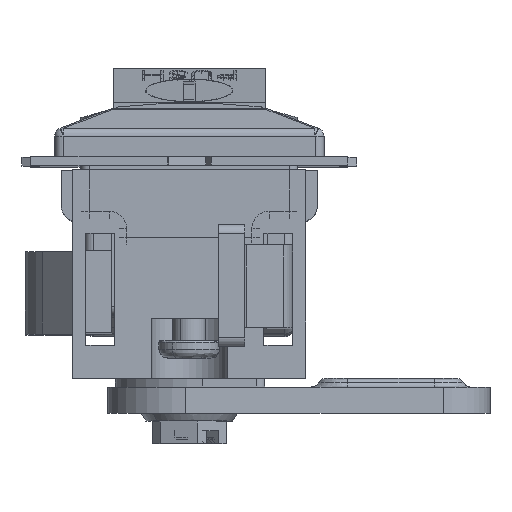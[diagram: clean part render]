
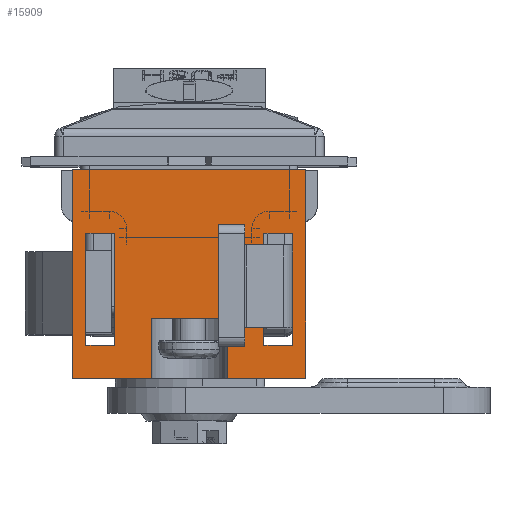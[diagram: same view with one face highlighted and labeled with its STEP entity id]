
A CAD part, top view. The second image highlights one B-rep face of the part: STEP entity #15909.
In plain terms, the highlighted planar face has unit normal (0, 0, 1).
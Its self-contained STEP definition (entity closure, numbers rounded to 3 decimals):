
#781 = LINE ( 'NONE', #7086, #1359 ) ;
#938 = LINE ( 'NONE', #10235, #2491 ) ;
#1156 = CARTESIAN_POINT ( 'NONE',  ( 13.09, 21.3, 18.91 ) ) ;
#1359 = VECTOR ( 'NONE', #23259, 1000. ) ;
#1410 = VECTOR ( 'NONE', #9659, 1000. ) ;
#1505 = DIRECTION ( 'NONE',  ( 1., 0., 0. ) ) ;
#1563 = EDGE_CURVE ( 'NONE', #16975, #1639, #9891, .T. ) ;
#1639 = VERTEX_POINT ( 'NONE', #4815 ) ;
#1686 = CARTESIAN_POINT ( 'NONE',  ( 13.09, 8.4, 18.91 ) ) ;
#1848 = LINE ( 'NONE', #6668, #1940 ) ;
#1940 = VECTOR ( 'NONE', #3043, 1000. ) ;
#1973 = ORIENTED_EDGE ( 'NONE', *, *, #14049, .F. ) ;
#2144 = LINE ( 'NONE', #1686, #2705 ) ;
#2491 = VECTOR ( 'NONE', #22830, 1000. ) ;
#2705 = VECTOR ( 'NONE', #1505, 1000. ) ;
#2744 = DIRECTION ( 'NONE',  ( 0., 1., 0. ) ) ;
#2902 = CARTESIAN_POINT ( 'NONE',  ( 11.59, 8.4, 18.91 ) ) ;
#3043 = DIRECTION ( 'NONE',  ( 0., 1., 0. ) ) ;
#3269 = EDGE_CURVE ( 'NONE', #3904, #5247, #14982, .T. ) ;
#3448 = LINE ( 'NONE', #16379, #4052 ) ;
#3572 = DIRECTION ( 'NONE',  ( -1., 0., 0. ) ) ;
#3609 = VECTOR ( 'NONE', #23014, 1000. ) ;
#3624 = VERTEX_POINT ( 'NONE', #22893 ) ;
#3904 = VERTEX_POINT ( 'NONE', #18223 ) ;
#3964 = VECTOR ( 'NONE', #19983, 1000. ) ;
#4052 = VECTOR ( 'NONE', #23290, 1000. ) ;
#4094 = CARTESIAN_POINT ( 'NONE',  ( 13.09, 21.3, 18.91 ) ) ;
#4241 = CARTESIAN_POINT ( 'NONE',  ( -13.71, 25.1, 18.91 ) ) ;
#4492 = AXIS2_PLACEMENT_3D ( 'NONE', #8312, #21084, #10181 ) ;
#4652 = FACE_OUTER_BOUND ( 'NONE', #21886, .T. ) ;
#4669 = VECTOR ( 'NONE', #5955, 1000. ) ;
#4815 = CARTESIAN_POINT ( 'NONE',  ( 4.09, 18.2, 18.91 ) ) ;
#5203 = ORIENTED_EDGE ( 'NONE', *, *, #16974, .F. ) ;
#5247 = VERTEX_POINT ( 'NONE', #14449 ) ;
#5468 = ORIENTED_EDGE ( 'NONE', *, *, #7988, .F. ) ;
#5471 = EDGE_CURVE ( 'NONE', #21590, #21177, #20949, .T. ) ;
#5955 = DIRECTION ( 'NONE',  ( 0., 1., 0. ) ) ;
#5986 = CARTESIAN_POINT ( 'NONE',  ( -13.71, 0., 18.91 ) ) ;
#6217 = VECTOR ( 'NONE', #3572, 1000. ) ;
#6248 = CARTESIAN_POINT ( 'NONE',  ( 4.09, 0., 18.91 ) ) ;
#6327 = ORIENTED_EDGE ( 'NONE', *, *, #22666, .F. ) ;
#6430 = DIRECTION ( 'NONE',  ( 1., 0., 0. ) ) ;
#6483 = CARTESIAN_POINT ( 'NONE',  ( 13.09, 18.2, 18.91 ) ) ;
#6668 = CARTESIAN_POINT ( 'NONE',  ( 11.59, 0., 18.91 ) ) ;
#7086 = CARTESIAN_POINT ( 'NONE',  ( 13.09, 8.4, 18.91 ) ) ;
#7948 = LINE ( 'NONE', #1156, #3609 ) ;
#7964 = DIRECTION ( 'NONE',  ( 0., -1., 0. ) ) ;
#7988 = EDGE_CURVE ( 'NONE', #12635, #19079, #2144, .T. ) ;
#7995 = LINE ( 'NONE', #13910, #12987 ) ;
#8048 = CARTESIAN_POINT ( 'NONE',  ( 13.09, 1.1, 18.91 ) ) ;
#8253 = ORIENTED_EDGE ( 'NONE', *, *, #11424, .F. ) ;
#8312 = CARTESIAN_POINT ( 'NONE',  ( 13.09, 0., 18.91 ) ) ;
#8510 = ORIENTED_EDGE ( 'NONE', *, *, #17584, .T. ) ;
#8979 = CARTESIAN_POINT ( 'NONE',  ( -12.21, 0., 18.91 ) ) ;
#9370 = VERTEX_POINT ( 'NONE', #8048 ) ;
#9634 = CARTESIAN_POINT ( 'NONE',  ( -8.895, 0., 18.91 ) ) ;
#9659 = DIRECTION ( 'NONE',  ( 0., 1., 0. ) ) ;
#9891 = LINE ( 'NONE', #6483, #14872 ) ;
#10151 = EDGE_CURVE ( 'NONE', #19079, #18698, #10674, .T. ) ;
#10181 = DIRECTION ( 'NONE',  ( -1., 0., 0. ) ) ;
#10235 = CARTESIAN_POINT ( 'NONE',  ( -4.71, 0., 18.91 ) ) ;
#10674 = LINE ( 'NONE', #9634, #1410 ) ;
#10972 = ORIENTED_EDGE ( 'NONE', *, *, #1563, .F. ) ;
#11028 = ORIENTED_EDGE ( 'NONE', *, *, #14714, .F. ) ;
#11168 = CARTESIAN_POINT ( 'NONE',  ( 8.275, 0., 18.91 ) ) ;
#11424 = EDGE_CURVE ( 'NONE', #3624, #12635, #22888, .T. ) ;
#11639 = FACE_BOUND ( 'NONE', #20627, .T. ) ;
#12635 = VERTEX_POINT ( 'NONE', #12821 ) ;
#12767 = ORIENTED_EDGE ( 'NONE', *, *, #16498, .F. ) ;
#12821 = CARTESIAN_POINT ( 'NONE',  ( -12.21, 8.4, 18.91 ) ) ;
#12987 = VECTOR ( 'NONE', #2744, 1000. ) ;
#13237 = LINE ( 'NONE', #4241, #22662 ) ;
#13910 = CARTESIAN_POINT ( 'NONE',  ( 13.09, 0., 18.91 ) ) ;
#14007 = FACE_BOUND ( 'NONE', #16927, .T. ) ;
#14049 = EDGE_CURVE ( 'NONE', #21065, #16975, #938, .T. ) ;
#14069 = VERTEX_POINT ( 'NONE', #15865 ) ;
#14165 = CARTESIAN_POINT ( 'NONE',  ( -8.895, 8.4, 18.91 ) ) ;
#14337 = VECTOR ( 'NONE', #19140, 1000. ) ;
#14392 = ORIENTED_EDGE ( 'NONE', *, *, #15465, .F. ) ;
#14449 = CARTESIAN_POINT ( 'NONE',  ( 8.275, 21.3, 18.91 ) ) ;
#14714 = EDGE_CURVE ( 'NONE', #16007, #3904, #1848, .T. ) ;
#14872 = VECTOR ( 'NONE', #6430, 1000. ) ;
#14925 = ORIENTED_EDGE ( 'NONE', *, *, #17841, .F. ) ;
#14982 = LINE ( 'NONE', #4094, #6217 ) ;
#15378 = CARTESIAN_POINT ( 'NONE',  ( -4.71, 18.2, 18.91 ) ) ;
#15465 = EDGE_CURVE ( 'NONE', #9370, #21590, #3448, .T. ) ;
#15504 = ORIENTED_EDGE ( 'NONE', *, *, #5471, .F. ) ;
#15865 = CARTESIAN_POINT ( 'NONE',  ( 8.275, 8.4, 18.91 ) ) ;
#15909 = ADVANCED_FACE ( 'NONE', ( #4652, #14007, #11639 ), #17531, .F. ) ;
#16007 = VERTEX_POINT ( 'NONE', #2902 ) ;
#16173 = ORIENTED_EDGE ( 'NONE', *, *, #10151, .F. ) ;
#16305 = CARTESIAN_POINT ( 'NONE',  ( -8.895, 21.3, 18.91 ) ) ;
#16379 = CARTESIAN_POINT ( 'NONE',  ( 13.09, 1.1, 18.91 ) ) ;
#16498 = EDGE_CURVE ( 'NONE', #1639, #22197, #17998, .T. ) ;
#16927 = EDGE_LOOP ( 'NONE', ( #16173, #5468, #8253, #22958 ) ) ;
#16974 = EDGE_CURVE ( 'NONE', #21177, #21065, #13237, .T. ) ;
#16975 = VERTEX_POINT ( 'NONE', #15378 ) ;
#17117 = EDGE_CURVE ( 'NONE', #18698, #3624, #7948, .T. ) ;
#17316 = LINE ( 'NONE', #11168, #19479 ) ;
#17468 = VERTEX_POINT ( 'NONE', #18872 ) ;
#17531 = PLANE ( 'NONE',  #4492 ) ;
#17544 = LINE ( 'NONE', #19913, #3964 ) ;
#17584 = EDGE_CURVE ( 'NONE', #9370, #17468, #7995, .T. ) ;
#17841 = EDGE_CURVE ( 'NONE', #14069, #16007, #781, .T. ) ;
#17998 = LINE ( 'NONE', #6248, #14337 ) ;
#18167 = EDGE_CURVE ( 'NONE', #22197, #17468, #17544, .T. ) ;
#18223 = CARTESIAN_POINT ( 'NONE',  ( 11.59, 21.3, 18.91 ) ) ;
#18456 = CARTESIAN_POINT ( 'NONE',  ( -13.71, 25.1, 18.91 ) ) ;
#18698 = VERTEX_POINT ( 'NONE', #16305 ) ;
#18872 = CARTESIAN_POINT ( 'NONE',  ( 13.09, 25.1, 18.91 ) ) ;
#18966 = DIRECTION ( 'NONE',  ( 1., 0., 0. ) ) ;
#19079 = VERTEX_POINT ( 'NONE', #14165 ) ;
#19140 = DIRECTION ( 'NONE',  ( 0., 1., 0. ) ) ;
#19242 = ORIENTED_EDGE ( 'NONE', *, *, #18167, .F. ) ;
#19479 = VECTOR ( 'NONE', #21981, 1000. ) ;
#19829 = CARTESIAN_POINT ( 'NONE',  ( -13.71, 1.1, 18.91 ) ) ;
#19913 = CARTESIAN_POINT ( 'NONE',  ( -13.71, 25.1, 18.91 ) ) ;
#19983 = DIRECTION ( 'NONE',  ( 1., 0., 0. ) ) ;
#20423 = CARTESIAN_POINT ( 'NONE',  ( 4.09, 25.1, 18.91 ) ) ;
#20627 = EDGE_LOOP ( 'NONE', ( #14925, #6327, #21425, #11028 ) ) ;
#20949 = LINE ( 'NONE', #5986, #4669 ) ;
#21065 = VERTEX_POINT ( 'NONE', #22926 ) ;
#21084 = DIRECTION ( 'NONE',  ( 0., 0., -1. ) ) ;
#21177 = VERTEX_POINT ( 'NONE', #18456 ) ;
#21425 = ORIENTED_EDGE ( 'NONE', *, *, #3269, .F. ) ;
#21590 = VERTEX_POINT ( 'NONE', #19829 ) ;
#21886 = EDGE_LOOP ( 'NONE', ( #10972, #1973, #5203, #15504, #14392, #8510, #19242, #12767 ) ) ;
#21981 = DIRECTION ( 'NONE',  ( 0., -1., 0. ) ) ;
#22197 = VERTEX_POINT ( 'NONE', #20423 ) ;
#22662 = VECTOR ( 'NONE', #18966, 1000. ) ;
#22666 = EDGE_CURVE ( 'NONE', #5247, #14069, #17316, .T. ) ;
#22828 = VECTOR ( 'NONE', #7964, 1000. ) ;
#22830 = DIRECTION ( 'NONE',  ( 0., -1., 0. ) ) ;
#22888 = LINE ( 'NONE', #8979, #22828 ) ;
#22893 = CARTESIAN_POINT ( 'NONE',  ( -12.21, 21.3, 18.91 ) ) ;
#22926 = CARTESIAN_POINT ( 'NONE',  ( -4.71, 25.1, 18.91 ) ) ;
#22958 = ORIENTED_EDGE ( 'NONE', *, *, #17117, .F. ) ;
#23014 = DIRECTION ( 'NONE',  ( -1., 0., 0. ) ) ;
#23259 = DIRECTION ( 'NONE',  ( 1., 0., 0. ) ) ;
#23290 = DIRECTION ( 'NONE',  ( -1., 0., 0. ) ) ;
